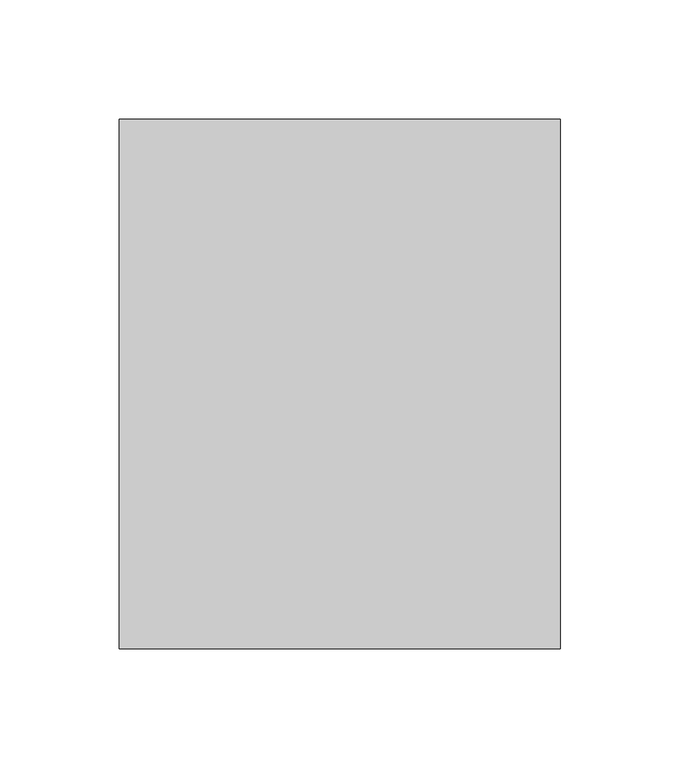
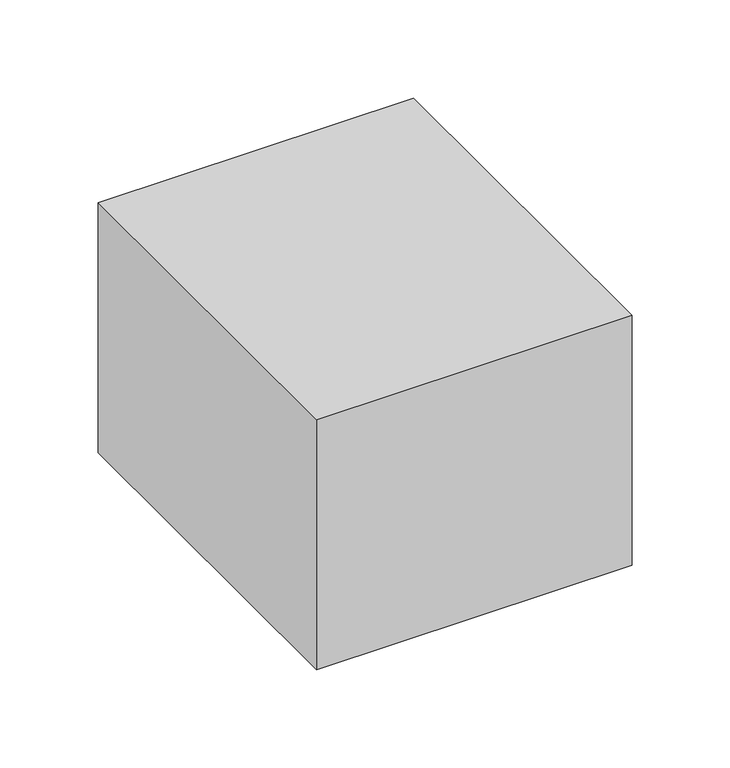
"""IFC4 building model written with IfcOpenShell, lengths in millimetres: light fixture geometry,  217 :  212217."""

import ifcopenshell
import ifcopenshell.guid

model = None  # the IFC model being written
_history = None  # IfcOwnerHistory: only IFC2X3 demands one
_inside = {}  # id of a spatial element -> (the spatial element, [elements in it])
_under = {}  # id of a project, library or spatial element -> (it, [spatial elements below it])
_declared = {}  # id of a project -> (the project, [libraries it declares])
_typed = {}  # id of a type object -> (the type object, [elements of that type])
_made_of = {}  # id of a material, layer set ... -> (it, [elements and type objects made of it])


def new_model(schema):
    """Start an empty IFC model of exactly this schema.

    Asked for "IFC4X3", IfcOpenShell would pick the latest addendum, in which some entities
    have other attributes; the version numbers below select the first issue.
    IFC2X3 requires an IfcOwnerHistory on every rooted entity: one is made here for all.
    """
    global model, _history
    if schema == "IFC4X3":
        model = ifcopenshell.file(schema_version=(4, 3, 0, 0))
    else:
        model = ifcopenshell.file(schema=schema)
    _inside.clear()
    _under.clear()
    _declared.clear()
    _typed.clear()
    _made_of.clear()
    _history = None
    if model.schema == "IFC2X3":
        org = make("IfcOrganization", Name="unknown")
        user = make(
            "IfcPersonAndOrganization",
            ThePerson=make("IfcPerson", FamilyName="unknown"),
            TheOrganization=org,
        )
        app = make(
            "IfcApplication",
            ApplicationDeveloper=org,
            Version="unknown",
            ApplicationFullName="unknown",
            ApplicationIdentifier="unknown",
        )
        _history = make(
            "IfcOwnerHistory",
            OwningUser=user,
            OwningApplication=app,
            ChangeAction="ADDED",
            CreationDate=0,
        )
    return model


def make(cls, **values):
    """One entity of the class cls with the attributes given. An attribute that is None is left unset."""
    return model.create_entity(
        cls, **{name: value for name, value in values.items() if value is not None}
    )


def rooted(cls, **values):
    """An entity with a GlobalId (a new one), such as an element, a storey or a relation."""
    return make(cls, GlobalId=ifcopenshell.guid.new(), OwnerHistory=_history, **values)


def si_unit(unit_type, name, prefix=None):
    """IfcSIUnit, for example si_unit("LENGTHUNIT", "METRE", prefix="MILLI")."""
    return make("IfcSIUnit", UnitType=unit_type, Prefix=prefix, Name=name)


def assignment(units):
    """IfcUnitAssignment: the units of a project."""
    return None if units is None else make("IfcUnitAssignment", Units=units)


def point(xyz):
    """IfcCartesianPoint."""
    return None if xyz is None else make("IfcCartesianPoint", Coordinates=xyz)


def direction(xyz):
    """IfcDirection."""
    return None if xyz is None else make("IfcDirection", DirectionRatios=xyz)


def frame(location, z_axis=None, x_axis=None):
    """IfcAxis2Placement3D, a coordinate frame: its origin and axes. An axis left out is left unset."""
    return make(
        "IfcAxis2Placement3D",
        Location=point(location),
        Axis=direction(z_axis),
        RefDirection=direction(x_axis),
    )


def origin():
    """The frame at (0, 0, 0) with its axes left unset."""
    return frame((0.0, 0.0, 0.0))


def place(relative_to, where):
    """IfcLocalPlacement: puts the frame where relative to a parent placement (None: the world)."""
    return make(
        "IfcLocalPlacement", PlacementRelTo=relative_to, RelativePlacement=where
    )


def context(
    kind, dimensions, precision=None, world=None, true_north=None, identifier=None
):
    """IfcGeometricRepresentationContext, for example the 3D "Model" context."""
    return make(
        "IfcGeometricRepresentationContext",
        ContextIdentifier=identifier,
        ContextType=kind,
        CoordinateSpaceDimension=dimensions,
        Precision=precision,
        WorldCoordinateSystem=world,
        TrueNorth=true_north,
    )


def project(units=None, contexts=None):
    """IfcProject with its units and contexts."""
    return rooted(
        "IfcProject",
        Name="project",
        RepresentationContexts=contexts,
        UnitsInContext=assignment(units),
    )


def spatial(cls, under=None, at=None, **own):
    """A site, building, storey or space (cls), placed at a placement, below another one or the project."""
    s = rooted(cls, ObjectPlacement=at, **own)
    if under is not None:
        _under.setdefault(under.id(), (under, []))[1].append(s)
    return s


def polyline(points):
    """IfcPolyline through the points."""
    return make("IfcPolyline", Points=[point(p) for p in points])


def outline(outer, holes=None, kind="AREA"):
    """IfcArbitraryClosedProfileDef: a profile drawn as a closed curve; with holes, ...WithVoids."""
    if holes is None:
        return make("IfcArbitraryClosedProfileDef", ProfileType=kind, OuterCurve=outer)
    return make(
        "IfcArbitraryProfileDefWithVoids",
        ProfileType=kind,
        OuterCurve=outer,
        InnerCurves=holes,
    )


def extrude(swept, where, along, depth):
    """IfcExtrudedAreaSolid: the profile swept, set in the frame where, extruded along a direction by depth."""
    return make(
        "IfcExtrudedAreaSolid",
        SweptArea=swept,
        Position=where,
        ExtrudedDirection=direction(along),
        Depth=depth,
    )


def shape(context_of_items, identifier, shape_type, items):
    """IfcShapeRepresentation: the items that make up one representation, for example the "Body"."""
    return make(
        "IfcShapeRepresentation",
        ContextOfItems=context_of_items,
        RepresentationIdentifier=identifier,
        RepresentationType=shape_type,
        Items=items,
    )


def source(mapping_origin, context_of_items, identifier, shape_type, items):
    """IfcRepresentationMap: a shape defined once, which mapped items show again and again."""
    return make(
        "IfcRepresentationMap",
        MappingOrigin=mapping_origin,
        MappedRepresentation=shape(context_of_items, identifier, shape_type, items),
    )


def transform(
    local_origin,
    x_axis=None,
    y_axis=None,
    z_axis=None,
    scale=None,
    scale2=None,
    scale3=None,
    uniform=True,
):
    """IfcCartesianTransformationOperator3D, or its non-uniform kind. x_axis, y_axis, z_axis: its Axis1, 2, 3."""
    if uniform:
        return make(
            "IfcCartesianTransformationOperator3D",
            Axis1=direction(x_axis),
            Axis2=direction(y_axis),
            LocalOrigin=point(local_origin),
            Scale=scale,
            Axis3=direction(z_axis),
        )
    return make(
        "IfcCartesianTransformationOperator3DnonUniform",
        Axis1=direction(x_axis),
        Axis2=direction(y_axis),
        LocalOrigin=point(local_origin),
        Scale=scale,
        Axis3=direction(z_axis),
        Scale2=scale2,
        Scale3=scale3,
    )


def mapped(mapping_source, mapping_target):
    """IfcMappedItem: shows the shape of a source again, moved by a transform."""
    return make(
        "IfcMappedItem", MappingSource=mapping_source, MappingTarget=mapping_target
    )


def made_of(thing, what):
    """Note that an element or type object is made of a material, layer set ...; save() writes the relation."""
    if what is not None:
        _made_of.setdefault(what.id(), (what, []))[1].append(thing)
    return thing


def element(
    cls,
    number,
    at=None,
    inside=None,
    cuts=None,
    type_object=None,
    material=None,
    context=None,
    identifier="Body",
    shape_type=None,
    held_by="IfcProductDefinitionShape",
    body=None,
    shapes=None,
    **own,
):
    """One element of the class cls, such as IfcWall. Its Tag is "e" and its number.

    at: its placement. inside: the storey or other place that contains it. cuts: it is an
    opening in that element (IfcRelVoidsElement). A single representation is given by context,
    identifier, shape_type and body (its items); several are given by shapes. held_by: the class
    of the entity that holds the representations. save() writes the other relations.
    """
    e = rooted(cls, Tag="e%d" % number, ObjectPlacement=at, **own)
    if body is not None:
        shapes = [shape(context, identifier, shape_type, body)]
    if shapes is not None:
        e.Representation = make(held_by, Representations=shapes)
    if inside is not None:
        _inside.setdefault(inside.id(), (inside, []))[1].append(e)
    if cuts is not None:
        rooted(
            "IfcRelVoidsElement", RelatingBuildingElement=cuts, RelatedOpeningElement=e
        )
    if type_object is not None:
        _typed.setdefault(type_object.id(), (type_object, []))[1].append(e)
    return made_of(e, material)


def aggregate(whole, parts):
    """IfcRelAggregates: a whole, such as a stair, and the parts it consists of."""
    return rooted("IfcRelAggregates", RelatingObject=whole, RelatedObjects=parts)


def save(model, path):
    """Write the relations noted so far, then the file.

    IfcRelAggregates (storeys below a building ...), IfcRelContainedInSpatialStructure (elements
    in a storey), IfcRelDefinesByType, IfcRelAssociatesMaterial and IfcRelDeclares: one each for
    every whole, place, type object, material and project.
    """
    for whole, parts in _under.values():
        aggregate(whole, parts)
    for where, things in _inside.values():
        rooted(
            "IfcRelContainedInSpatialStructure",
            RelatedElements=things,
            RelatingStructure=where,
        )
    for kind, things in _typed.values():
        rooted("IfcRelDefinesByType", RelatedObjects=things, RelatingType=kind)
    for what, things in _made_of.values():
        rooted("IfcRelAssociatesMaterial", RelatedObjects=things, RelatingMaterial=what)
    for by, libraries in _declared.values():
        rooted("IfcRelDeclares", RelatingContext=by, RelatedDefinitions=libraries)
    model.write(path)


def light_fixture_9afcb20e(model_context):
    return source(origin(), model_context, "Body", "SweptSolid", [
        extrude(outline(polyline([(24015.3746511, 12974.9121745), (24200.3746511, 12974.9121745), (24200.3746511, 12752.9121745), (24015.3746511, 12752.9121745), (24015.3746511, 12974.9121745)])), frame((0.0, 0.0, 1375.0), z_axis=(0.0, 0.0, 1.0), x_axis=(1.0, 0.0, 0.0)), (0.0, 0.0, 1.0), 155.0),
    ])


if __name__ == "__main__":
    model = new_model("IFC4")
    model_context = context("Model", 3, world=origin())
    ifc_project = project(units=[si_unit("LENGTHUNIT", "METRE", prefix="MILLI")], contexts=[model_context])
    site = spatial("IfcSite", under=ifc_project)
    building = spatial("IfcBuilding", under=site)
    placement = place(None, origin())
    light_fixture_shape = light_fixture_9afcb20e(model_context)
    element("IfcLightFixture", 1, ObjectType=" 217 :  212217", at=placement, inside=building, context=model_context, shape_type="MappedRepresentation", body=[
        mapped(light_fixture_shape, transform((0.0, 0.0, 0.0), x_axis=(1.0, 0.0, 0.0), y_axis=(0.0, 1.0, 0.0), z_axis=(0.0, 0.0, 1.0))),
    ])
    save(model, "model.ifc")
